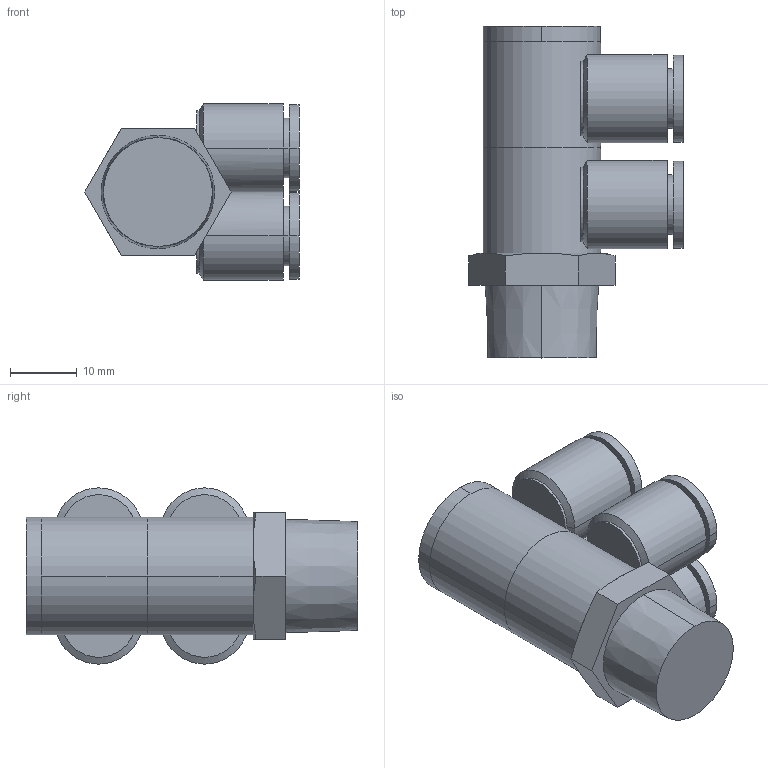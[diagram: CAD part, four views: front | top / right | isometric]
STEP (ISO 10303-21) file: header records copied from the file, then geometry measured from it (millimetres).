
FILE_DESCRIPTION (( 'STEP AP203' ), '1' );
FILE_NAME ('FZD08-03.STEP', '2020-05-11T14:48:26', ( '' ), ( '' ), 'SwSTEP 2.0', 'SolidWorks 2019', '' );
FILE_SCHEMA (( 'CONFIG_CONTROL_DESIGN' ));
Length unit declared in the file: millimetre
Products named in the file (1): FZD08-03
Bounding box: 32.17 x 49.8 x 26.45 mm (x, y, z)
Volume: 16935.3 mm3; surface area: 11485.4 mm2
Topology: 3 solids, 3 shells, 113 faces, 250 edges, 158 vertices
Faces by surface type: cylinder 60, plane 33, cone 20
Entity records: 3875 total; most frequent: CARTESIAN_POINT 1266, DIRECTION 556, ORIENTED_EDGE 500, EDGE_CURVE 250, AXIS2_PLACEMENT_3D 236, VERTEX_POINT 158, EDGE_LOOP 132, CIRCLE 122
